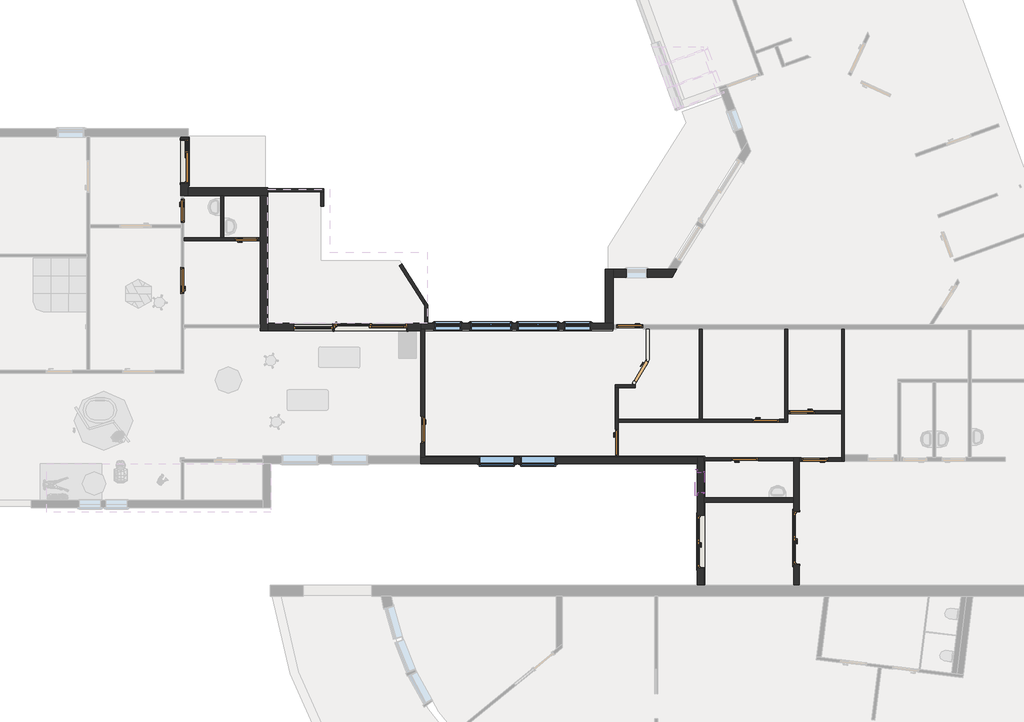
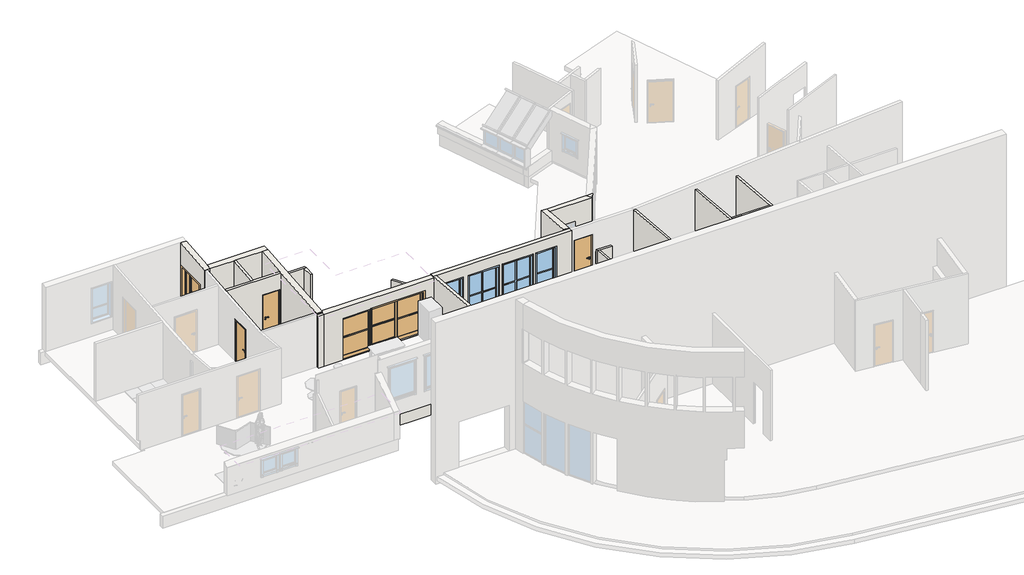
# One storey, part 6 of 13: 37 walls, 17 doors, 7 windows.
"""IFC4 building model written with IfcOpenShell, lengths in millimetres."""

from ifc_helpers import new_model, si_unit, frame, origin, place, context, project, spatial, polyline, outline, extrude, faceted_brep, transform, mapped, element, save
from components import door_11x21_32893f3e, door_18x21_50e2a548, door_18x21_e1513df9, door_25x21_st1_800ea007, door_4x21_9b28eff4, door_8x12_f3acdaa1, door_8x21_60cf5580, door_9x21_12a167ef, door_9x21_a27eb880, door_9x21_ce0798c1, door_9x21_316ed650, door_9x21_44255de1, fast_felt_stf_1_stf1_1_324_1ef75639, window_12x16_fk_50476c46, window_14x17_fk_b532f911, window_7x4_gh_66049d69, window_9x17_fks_5456dc16

model = new_model("IFC4")

# Units and contexts
model_context = context("Model", 3, world=origin())
ifc_project = project(units=[si_unit("LENGTHUNIT", "METRE", prefix="MILLI")], contexts=[model_context])

# Site, building, storey
site = spatial("IfcSite", under=ifc_project)
building = spatial("IfcBuilding", under=site)
storey = spatial("IfcBuildingStorey", under=building, Name="1.0 første etg hovedbygg", Elevation=2500.0)

# Doors
placement = place(None, origin())
door_11x21_shape = door_11x21_32893f3e(model_context)
element("IfcDoor", 1, ObjectType="FPS Bangstad : 11x21", at=placement, inside=storey, context=model_context, shape_type="MappedRepresentation", body=[
    mapped(door_11x21_shape, transform((-6700.0837517, 14051.0, 2500.0), x_axis=(0.0, 1.0, 0.0), y_axis=(-1.0, 0.0, 0.0), z_axis=(0.0, 0.0, 1.0))),
])
door_18x21_shape = door_18x21_50e2a548(model_context)
element("IfcDoor", 2, ObjectType="Eigen 1 med glas Dobbel : 18x21", at=placement, inside=storey, context=model_context, shape_type="MappedRepresentation", body=[
    mapped(door_18x21_shape, transform((10838.9162483, 1331.0, 2500.0), x_axis=(0.0, 1.0, 0.0), y_axis=(-1.0, 0.0, 0.0), z_axis=(0.0, 0.0, 1.0))),
])
door_18x21_2_shape = door_18x21_e1513df9(model_context)
element("IfcDoor", 3, ObjectType="Eigen 1 med glas Dobbel : 18x21", at=placement, inside=storey, context=model_context, shape_type="MappedRepresentation", body=[
    mapped(door_18x21_2_shape, transform((14101.9162483, 1451.0, 2500.0), x_axis=(0.0, 1.0, 0.0), y_axis=(-1.0, 0.0, 0.0), z_axis=(0.0, 0.0, 1.0))),
])
door_25x21_st1_shape = door_25x21_st1_800ea007(model_context)
element("IfcDoor", 4, ObjectType="Balkongdor ST 1 : 25x21 ST1", at=placement, inside=storey, context=model_context, shape_type="MappedRepresentation", body=[
    mapped(door_25x21_st1_shape, transform((-378.0837517, 8668.0, 2500.0), x_axis=(-1.0, 0.0, 0.0), y_axis=(0.0, -1.0, 0.0), z_axis=(0.0, 0.0, 1.0))),
])
door_4x21_shape = door_4x21_9b28eff4(model_context)
element("IfcDoor", 5, ObjectType="Sidefelt HS : 4x21", at=placement, inside=storey, context=model_context, shape_type="MappedRepresentation", body=[
    mapped(door_4x21_shape, transform((-6700.0837517, 14545.0, 2500.0), x_axis=(0.0, -1.0, 0.0), y_axis=(1.0, 0.0, 0.0), z_axis=(0.0, 0.0, 1.0))),
])
door_8x12_shape = door_8x12_f3acdaa1(model_context)
element("IfcDoor", 6, ObjectType="Innerdør Slett (Diplomat) : 8x12", at=placement, inside=storey, context=model_context, shape_type="MappedRepresentation", body=[
    mapped(door_8x12_shape, transform((8787.5726948, 7118.1793516, 2500.0), x_axis=(0.5102616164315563, 0.8600192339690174, 0.0), y_axis=(-0.8600192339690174, 0.5102616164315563, 0.0), z_axis=(0.0, 0.0, 1.0))),
])
door_8x21_shape = door_8x21_60cf5580(model_context)
element("IfcDoor", 7, ObjectType="Innerdør Slett (Diplomat) : 8x21", at=placement, inside=storey, context=model_context, shape_type="MappedRepresentation", body=[
    mapped(door_8x21_shape, transform((-6768.0837517, 12564.620367, 2500.0), x_axis=(0.0, 1.0, 0.0), y_axis=(-1.0, 0.0, 0.0), z_axis=(0.0, 0.0, 1.0))),
])
element("IfcDoor", 8, ObjectType="Innerdør Slett (Diplomat) : 8x21", at=placement, inside=storey, context=model_context, shape_type="MappedRepresentation", body=[
    mapped(door_8x21_shape, transform((-4546.7041187, 11650.0, 2500.0), x_axis=(-1.0, 0.0, 0.0), y_axis=(0.0, -1.0, 0.0), z_axis=(0.0, 0.0, 1.0))),
])
door_9x21_shape = door_9x21_12a167ef(model_context)
element("IfcDoor", 9, ObjectType="Innerdør Slett (Diplomat) : 9x21", at=placement, inside=storey, context=model_context, shape_type="MappedRepresentation", body=[
    mapped(door_9x21_shape, transform((8380.5366152, 8675.0, 2500.0), x_axis=(1.0, 0.0, 0.0), y_axis=(0.0, 1.0, 0.0), z_axis=(0.0, 0.0, 1.0))),
])
door_9x21_2_shape = door_9x21_a27eb880(model_context)
element("IfcDoor", 10, ObjectType="Innerdør Slett (Diplomat) : 9x21", at=placement, inside=storey, context=model_context, shape_type="MappedRepresentation", body=[
    mapped(door_9x21_2_shape, transform((1399.9162483, 5123.620367, 2500.0), x_axis=(0.0, 1.0, 0.0), y_axis=(-1.0, 0.0, 0.0), z_axis=(0.0, 0.0, 1.0))),
])
door_9x21_3_shape = door_9x21_ce0798c1(model_context)
element("IfcDoor", 11, ObjectType="Innerdør Slett (Diplomat) : 9x21", at=placement, inside=storey, context=model_context, shape_type="MappedRepresentation", body=[
    mapped(door_9x21_3_shape, transform((13105.2958813, 5480.0, 2500.0), x_axis=(-1.0, 0.0, 0.0), y_axis=(0.0, -1.0, 0.0), z_axis=(0.0, 0.0, 1.0))),
])
door_9x21_4_shape = door_9x21_316ed650(model_context)
element("IfcDoor", 12, ObjectType="Innerdør Slett (Diplomat) : 9x21", at=placement, inside=storey, context=model_context, shape_type="MappedRepresentation", body=[
    mapped(door_9x21_4_shape, transform((12392.2958813, 4180.0, 2500.0), x_axis=(-1.0, 0.0, 0.0), y_axis=(0.0, -1.0, 0.0), z_axis=(0.0, 0.0, 1.0))),
])
element("IfcDoor", 13, ObjectType="Innerdør Slett (Diplomat) : 9x21", at=placement, inside=storey, context=model_context, shape_type="MappedRepresentation", body=[
    mapped(door_9x21_4_shape, transform((14238.5366152, 5780.0, 2500.0), x_axis=(1.0, 0.0, 0.0), y_axis=(0.0, 1.0, 0.0), z_axis=(0.0, 0.0, 1.0))),
])
element("IfcDoor", 14, ObjectType="Innerdør Slett (Diplomat) : 9x21", at=placement, inside=storey, context=model_context, shape_type="MappedRepresentation", body=[
    mapped(door_9x21_4_shape, transform((7992.6242352, 4683.620367, 2500.0), x_axis=(0.0, 1.0, 0.0), y_axis=(-1.0, 0.0, 0.0), z_axis=(0.0, 0.0, 1.0))),
])
element("IfcDoor", 15, ObjectType="Innerdør Slett (Diplomat) : 9x21", at=placement, inside=storey, context=model_context, shape_type="MappedRepresentation", body=[
    mapped(door_9x21_4_shape, transform((-6768.0837517, 10303.379633, 2500.0), x_axis=(0.0, -1.0, 0.0), y_axis=(1.0, 0.0, 0.0), z_axis=(0.0, 0.0, 1.0))),
])
door_9x21_5_shape = door_9x21_44255de1(model_context)
element("IfcDoor", 16, ObjectType="Innerdør Slett (Diplomat) : 9x21", at=placement, inside=storey, context=model_context, shape_type="MappedRepresentation", body=[
    mapped(door_9x21_5_shape, transform((14668.5366152, 4165.0, 2500.0), x_axis=(1.0, 0.0, 0.0), y_axis=(0.0, 1.0, 0.0), z_axis=(0.0, 0.0, 1.0))),
])
fast_felt_stf_1_stf1_1_324_shape = fast_felt_stf_1_stf1_1_324_1ef75639(model_context)
element("IfcDoor", 17, ObjectType="Fast-Felt STF 1 : STF1 1,324", at=placement, inside=storey, context=model_context, shape_type="MappedRepresentation", body=[
    mapped(fast_felt_stf_1_stf1_1_324_shape, transform((-2320.0837517, 8668.0, 2500.0), x_axis=(1.0, 0.0, 0.0), y_axis=(0.0, 1.0, 0.0), z_axis=(0.0, 0.0, 1.0))),
])

# Walls
element("IfcWall", 18, ObjectType="Yttervegg Tre 148 Isolert LiggendeKledning", at=placement, inside=storey, context=model_context, shape_type="Brep", body=[
    faceted_brep([(10945.9162483, -110.0, 5911.6745073), (10945.9162483, -110.0, 2500.0), (10945.9162483, 470.0, 2500.0), (10945.9162483, 470.0, 4600.0), (10945.9162483, 2280.0, 4600.0), (10945.9162483, 2280.0, 2500.0), (10945.9162483, 2710.0, 2500.0), (10945.9162483, 2860.0, 2500.0), (10945.9162483, 4130.0, 2500.0), (10945.9162483, 4230.0, 2500.0), (10945.9162483, 4244.0, 2500.0), (10945.9162483, 4244.0, 5530.7488664), (10945.9162483, 4230.0, 5531.9737076), (10945.9162483, 4130.0, 5540.722574), (10945.9162483, 3030.0, 3900.0), (10945.9162483, 3030.0, 4310.0), (10945.9162483, 3740.0, 4310.0), (10945.9162483, 3740.0, 3900.0), (10731.9162483, -110.0, 2500.0), (10731.9162483, -110.0, 5911.6745073), (10731.9162483, 4030.0, 5549.4714403), (10731.9162483, 4244.0, 5530.7488664), (10731.9162483, 4244.0, 2500.0), (10731.9162483, 4030.0, 2500.0), (10731.9162483, 2280.0, 2500.0), (10731.9162483, 2280.0, 4600.0), (10731.9162483, 470.0, 4600.0), (10731.9162483, 470.0, 2500.0), (10731.9162483, 3030.0, 4310.0), (10731.9162483, 3030.0, 3900.0), (10731.9162483, 3740.0, 3900.0), (10731.9162483, 3740.0, 4310.0)], [[[0, 1, 2, 3, 4, 5, 6, 7, 8, 9, 10, 11, 12, 13], [14, 15, 16, 17]], [[18, 19, 20, 21, 22, 23, 24, 25, 26, 27], [28, 29, 30, 31]], [[1, 18, 27, 2]], [[22, 10, 9, 8, 7, 6, 5, 24, 23]], [[1, 0, 19, 18]], [[11, 10, 22, 21]], [[4, 25, 24, 5]], [[25, 4, 3, 26]], [[26, 3, 2, 27]], [[0, 13, 12, 11, 21, 20, 19]], [[14, 29, 28, 15]], [[15, 28, 31, 16]], [[16, 31, 30, 17]], [[29, 14, 17, 30]]]),
])
element("IfcWall", 19, ObjectType="Yttervegg Tre 148 Isolert LiggendeKledning", at=placement, inside=storey, context=model_context, shape_type="Brep", body=[
    faceted_brep([(10731.9162483, 4244.0, 2500.0), (8042.6242352, 4244.0, 2500.0), (7942.6242352, 4244.0, 2500.0), (1474.9162483, 4244.0, 2500.0), (1324.9162483, 4244.0, 2500.0), (1319.9162483, 4244.0, 2500.0), (1319.9162483, 4244.0, 5530.7488664), (1324.9162483, 4244.0, 5530.7488664), (1474.9162483, 4244.0, 5530.7488664), (7942.6242352, 4244.0, 5530.7488664), (8042.6242352, 4244.0, 5530.7488664), (10731.9162483, 4244.0, 5530.7488664), (4714.9162483, 4244.0, 4990.0), (4714.9162483, 4244.0, 3380.0), (5924.9162483, 4244.0, 3380.0), (5924.9162483, 4244.0, 4990.0), (3314.9162483, 4244.0, 4990.0), (3314.9162483, 4244.0, 3380.0), (4524.9162483, 4244.0, 3380.0), (4524.9162483, 4244.0, 4990.0), (1319.9162483, 4030.0, 2500.0), (10731.9162483, 4030.0, 2500.0), (10731.9162483, 4030.0, 5549.4714403), (1319.9162483, 4030.0, 5549.4714403), (4714.9162483, 4030.0, 3380.0), (4714.9162483, 4030.0, 4990.0), (5924.9162483, 4030.0, 4990.0), (5924.9162483, 4030.0, 3380.0), (3314.9162483, 4030.0, 3380.0), (3314.9162483, 4030.0, 4990.0), (4524.9162483, 4030.0, 4990.0), (4524.9162483, 4030.0, 3380.0)], [[[0, 1, 2, 3, 4, 5, 6, 7, 8, 9, 10, 11], [12, 13, 14, 15], [16, 17, 18, 19]], [[20, 21, 22, 23], [24, 25, 26, 27], [28, 29, 30, 31]], [[5, 4, 3, 2, 1, 0, 21, 20]], [[6, 5, 20, 23]], [[0, 11, 22, 21]], [[11, 10, 9, 8, 7, 6, 23, 22]], [[24, 13, 12, 25]], [[25, 12, 15, 26]], [[26, 15, 14, 27]], [[13, 24, 27, 14]], [[28, 17, 16, 29]], [[29, 16, 19, 30]], [[30, 19, 18, 31]], [[17, 28, 31, 18]]]),
])
element("IfcWall", 20, ObjectType="Yttervegg Tre 198 Isolert Liggende Kledning", at=placement, inside=storey, context=model_context, shape_type="Brep", body=[
    faceted_brep([(-6832.0837517, 15136.0139609, 5719.8280331), (-6832.0837517, 15136.0139609, 2500.0), (-6832.0837517, 15050.0, 2500.0), (-6832.0837517, 15050.0, 4600.0), (-6832.0837517, 13540.0, 4600.0), (-6832.0837517, 13540.0, 2500.0), (-6832.0837517, 13136.0, 2500.0), (-6832.0837517, 13136.0, 5544.8494847), (-6568.0837517, 15136.0139609, 2500.0), (-6568.0837517, 15136.0139609, 5719.8280331), (-6568.0837517, 13400.0, 5567.9464918), (-6568.0837517, 13136.0, 5544.8494847), (-6568.0837517, 13136.0, 2500.0), (-6568.0837517, 13400.0, 2500.0), (-6568.0837517, 13540.0, 2500.0), (-6568.0837517, 13540.0, 4600.0), (-6568.0837517, 15050.0, 4600.0), (-6568.0837517, 15050.0, 2500.0), (-6622.0837517, 15136.0139609, 2500.0), (-6622.0837517, 15050.0, 2500.0), (-6622.0837517, 13136.0, 2500.0), (-6718.0837517, 13136.0, 2500.0), (-6818.0837517, 13136.0, 2500.0), (-6622.0837517, 13540.0, 2500.0), (-6718.0837517, 13136.0, 5544.8494847), (-6818.0837517, 13136.0, 5544.8494847)], [[[0, 1, 2, 3, 4, 5, 6, 7]], [[8, 9, 10, 11, 12, 13, 14, 15, 16, 17]], [[1, 18, 19, 2]], [[20, 21, 22, 6, 5, 23]], [[1, 0, 9, 8, 18]], [[18, 8, 17, 19]], [[12, 20, 23, 14, 13]], [[6, 22, 21, 20, 12, 11, 24, 25, 7]], [[0, 7, 25, 24, 11, 10, 9]], [[15, 4, 3, 16]], [[4, 15, 14, 23, 5]], [[16, 3, 2, 19, 17]]]),
])
element("IfcWall", 21, ObjectType="Yttervegg Tre 198 Isolert Liggende Kledning", at=placement, inside=storey, context=model_context, shape_type="Brep", body=[
    faceted_brep([(-6568.0837517, 13136.0, 5544.8494847), (-6568.0837517, 13136.0, 2500.0), (-5468.0837517, 13136.0, 2500.0), (-5368.0837517, 13136.0, 2500.0), (-4132.0837517, 13136.0, 2500.0), (-3868.0837517, 13136.0, 2500.0), (-3868.0837517, 13136.0, 5544.8494847), (-4132.0837517, 13136.0, 5544.8494847), (-5368.0837517, 13136.0, 5544.8494847), (-5468.0837517, 13136.0, 5544.8494847), (-6568.0837517, 13400.0, 2500.0), (-6568.0837517, 13400.0, 5567.9464918), (-3868.0837517, 13400.0, 5567.9464918), (-3868.0837517, 13400.0, 2500.0), (-6568.0837517, 13346.0, 2500.0), (-3868.0837517, 13346.0, 2500.0)], [[[0, 1, 2, 3, 4, 5, 6, 7, 8, 9]], [[10, 11, 12, 13]], [[5, 4, 3, 2, 1, 14, 15]], [[14, 10, 13, 15]], [[6, 5, 15, 13, 12]], [[0, 11, 10, 14, 1]], [[0, 9, 8, 7, 6, 12, 11]]]),
])
element("IfcWall", 22, ObjectType="Yttervegg Tre 198 Isolert Liggende Kledning", at=placement, inside=storey, context=model_context, shape_type="Brep", body=[
    faceted_brep([(-4132.0837517, 13136.0, 2500.0), (-4132.0837517, 11700.0, 2500.0), (-4132.0837517, 11600.0, 2500.0), (-4132.0837517, 8750.0, 2500.0), (-4132.0837517, 8650.0, 2500.0), (-4132.0837517, 8536.0, 2500.0), (-4132.0837517, 8536.0, 5101.8794377), (-4132.0837517, 8650.0, 5101.8794377), (-4132.0837517, 8650.0, 5157.7966268), (-4132.0837517, 8680.0, 5155.1719669), (-4132.0837517, 8680.0, 5155.0), (-4132.0837517, 8750.0, 5161.1242064), (-4132.0837517, 11600.0, 5410.4668975), (-4132.0837517, 11700.0, 5419.2157638), (-4132.0837517, 13136.0, 5544.8494847), (-3868.0837517, 13136.0, 2500.0), (-3868.0837517, 13136.0, 5544.8494847), (-3868.0837517, 8680.0, 5155.0), (-3868.0837517, 8680.0, 5155.1719669), (-3868.0837517, 8650.0, 5157.7966268), (-3868.0837517, 8650.0, 5101.8794377), (-3868.0837517, 8536.0, 5101.8794377), (-3868.0837517, 8536.0, 2500.0), (-3868.0837517, 8800.0, 2500.0), (-3922.0837517, 13136.0, 2500.0), (-3922.0837517, 8536.0, 2500.0)], [[[0, 1, 2, 3, 4, 5, 6, 7, 8, 9, 10, 11, 12, 13, 14]], [[15, 16, 17, 18, 19, 20, 21, 22, 23]], [[5, 4, 3, 2, 1, 0, 24, 25]], [[0, 14, 16, 15, 24]], [[24, 15, 23, 22, 25]], [[9, 18, 17, 10]], [[14, 13, 12, 11, 10, 17, 16]], [[9, 8, 19, 18]], [[20, 7, 6, 21]], [[6, 5, 25, 22, 21]], [[8, 7, 20, 19]]]),
])
element("IfcWall", 23, ObjectType="Yttervegg Tre 198 Isolert Liggende Kledning", at=placement, inside=storey, context=model_context, shape_type="Brep", body=[
    faceted_brep([(1324.9162483, 8536.0, 5101.8794377), (-3868.0837517, 8536.0, 5101.8794377), (-3868.0837517, 8536.0, 2500.0), (-2982.0837517, 8536.0, 2500.0), (-2982.0837517, 8536.0, 4600.0), (-1658.0837517, 8536.0, 4600.0), (-1658.0837517, 8536.0, 2500.0), (-1638.0837517, 8536.0, 2500.0), (-1638.0837517, 8536.0, 4600.0), (881.9162483, 8536.0, 4600.0), (881.9162483, 8536.0, 2500.0), (1324.9162483, 8536.0, 2500.0), (-3868.0837517, 8800.0, 5101.8794377), (1324.9162483, 8800.0, 5101.8794377), (1324.9162483, 8800.0, 2500.0), (881.9162483, 8800.0, 2500.0), (881.9162483, 8800.0, 4600.0), (-1638.0837517, 8800.0, 4600.0), (-1638.0837517, 8800.0, 2500.0), (-1658.0837517, 8800.0, 2500.0), (-1658.0837517, 8800.0, 4600.0), (-2982.0837517, 8800.0, 4600.0), (-2982.0837517, 8800.0, 2500.0), (-3868.0837517, 8800.0, 2500.0), (-3868.0837517, 8650.0, 5101.8794377), (-3868.0837517, 8746.0, 2500.0), (-2982.0837517, 8746.0, 2500.0), (1324.9162483, 8746.0, 2500.0), (1324.9162483, 8586.0, 2500.0), (881.9162483, 8746.0, 2500.0), (-1638.0837517, 8746.0, 2500.0), (-1658.0837517, 8746.0, 2500.0)], [[[0, 1, 2, 3, 4, 5, 6, 7, 8, 9, 10, 11]], [[12, 13, 14, 15, 16, 17, 18, 19, 20, 21, 22, 23]], [[1, 0, 13, 12, 24]], [[2, 25, 26, 3]], [[27, 28, 11, 10, 29]], [[30, 7, 6, 31]], [[2, 1, 24, 12, 23, 25]], [[25, 23, 22, 26]], [[14, 27, 29, 15]], [[18, 30, 31, 19]], [[8, 7, 30, 18, 17]], [[9, 8, 17, 16]], [[10, 9, 16, 15, 29]], [[5, 20, 19, 31, 6]], [[20, 5, 4, 21]], [[21, 4, 3, 26, 22]], [[13, 0, 11, 28, 27, 14]]]),
])
element("IfcWall", 24, ObjectType="Yttervegg Tre 198 Isolert Liggende Kledning", at=placement, inside=storey, context=model_context, shape_type="Brep", body=[
    faceted_brep([(7865.9162483, 8800.0, 2500.0), (7865.9162483, 10366.0, 2500.0), (7865.9162483, 10630.0, 2500.0), (7865.9162483, 10630.0, 5000.0), (7865.9162483, 10366.0, 5023.0970072), (7865.9162483, 8800.0, 5160.1042543), (7865.9162483, 8800.0, 5132.1505153), (7601.9162483, 8800.0, 2500.0), (7601.9162483, 8800.0, 5160.1042543), (7601.9162483, 10630.0, 5000.0), (7601.9162483, 10630.0, 2500.0), (7655.9162483, 8800.0, 2500.0), (7655.9162483, 10630.0, 2500.0)], [[[0, 1, 2, 3, 4, 5, 6]], [[7, 8, 9, 10]], [[2, 1, 0, 11, 12]], [[0, 6, 5, 8, 7, 11]], [[11, 7, 10, 12]], [[3, 2, 12, 10, 9]], [[5, 4, 3, 9, 8]]]),
])
element("IfcWall", 25, ObjectType="Yttervegg Tre 198 Isolert Liggende Kledning", at=placement, inside=storey, context=model_context, shape_type="Brep", body=[
    faceted_brep([(7865.9162483, 10366.0, 2500.0), (9872.7943192, 10366.0, 2500.0), (9872.7943192, 10366.0, 5023.0970072), (7865.9162483, 10366.0, 5023.0970072), (8314.1857909, 10366.0, 3380.0), (8314.1857909, 10366.0, 4090.0), (9024.1857909, 10366.0, 4090.0), (9024.1857909, 10366.0, 3380.0), (7865.9162483, 10630.0, 2500.0), (7865.9162483, 10630.0, 5000.0), (9726.4567296, 10630.0, 5000.0), (10037.7598281, 10630.0, 5023.0970072), (10037.7598281, 10630.0, 2500.0), (9726.4567296, 10630.0, 2500.0), (8314.1857909, 10630.0, 3380.0), (9024.1857909, 10630.0, 3380.0), (9024.1857909, 10630.0, 4090.0), (8314.1857909, 10630.0, 4090.0), (7865.9162483, 10576.0, 2500.0), (10004.0168831, 10576.0, 2500.0)], [[[0, 1, 2, 3], [4, 5, 6, 7]], [[8, 9, 10, 11, 12, 13], [14, 15, 16, 17]], [[1, 0, 18, 19]], [[0, 3, 9, 8, 18]], [[18, 8, 13, 12, 19]], [[2, 1, 19, 12, 11]], [[3, 2, 10, 9]], [[2, 11, 10]], [[5, 4, 14, 17]], [[6, 5, 17, 16]], [[7, 6, 16, 15]], [[4, 7, 15, 14]]]),
])
element("IfcWall", 26, ObjectType="Yttervegg Tre 148 Isolert LiggendeKledning", at=placement, inside=storey, context=model_context, shape_type="Brep", body=[
    faceted_brep([(1324.9162483, 8586.0, 2500.0), (1474.9162483, 8586.0, 2500.0), (7865.9162483, 8586.0, 2500.0), (7865.9162483, 8586.0, 5150.8730893), (1474.9162483, 8586.0, 5150.8730893), (1324.9162483, 8586.0, 5150.8730893), (1791.9162483, 8586.0, 2890.0), (1791.9162483, 8586.0, 4600.0), (2701.9162483, 8586.0, 4600.0), (2701.9162483, 8586.0, 2890.0), (3007.9162483, 8586.0, 2890.0), (3007.9162483, 8586.0, 4600.0), (4417.9162483, 8586.0, 4600.0), (4417.9162483, 8586.0, 2890.0), (4607.9162483, 8586.0, 2890.0), (4607.9162483, 8586.0, 4600.0), (6017.9162483, 8586.0, 4600.0), (6017.9162483, 8586.0, 2890.0), (6201.9162483, 8586.0, 2890.0), (6201.9162483, 8586.0, 4600.0), (7111.9162483, 8586.0, 4600.0), (7111.9162483, 8586.0, 2890.0), (7865.9162483, 8800.0, 2500.0), (7601.9162483, 8800.0, 2500.0), (1324.9162483, 8800.0, 2500.0), (1324.9162483, 8800.0, 5101.8794377), (1324.9162483, 8800.0, 5132.1505153), (7865.9162483, 8800.0, 5132.1505153), (1791.9162483, 8800.0, 4600.0), (1791.9162483, 8800.0, 2890.0), (2701.9162483, 8800.0, 2890.0), (2701.9162483, 8800.0, 4600.0), (3007.9162483, 8800.0, 4600.0), (3007.9162483, 8800.0, 2890.0), (4417.9162483, 8800.0, 2890.0), (4417.9162483, 8800.0, 4600.0), (4607.9162483, 8800.0, 4600.0), (4607.9162483, 8800.0, 2890.0), (6017.9162483, 8800.0, 2890.0), (6017.9162483, 8800.0, 4600.0), (6201.9162483, 8800.0, 4600.0), (6201.9162483, 8800.0, 2890.0), (7111.9162483, 8800.0, 2890.0), (7111.9162483, 8800.0, 4600.0), (7865.9162483, 8750.0, 2500.0), (7865.9162483, 8600.0, 2500.0), (7865.9162483, 8750.0, 5136.5249485), (1324.9162483, 8750.0, 5136.5249485)], [[[0, 1, 2, 3, 4, 5], [6, 7, 8, 9], [10, 11, 12, 13], [14, 15, 16, 17], [18, 19, 20, 21]], [[22, 23, 24, 25, 26, 27], [28, 29, 30, 31], [32, 33, 34, 35], [36, 37, 38, 39], [40, 41, 42, 43]], [[2, 1, 0, 24, 23, 22, 44, 45]], [[3, 2, 45, 44, 22, 27, 46]], [[5, 4, 3, 46, 27, 26, 47]], [[24, 0, 5, 47, 26, 25]], [[7, 6, 29, 28]], [[8, 7, 28, 31]], [[9, 8, 31, 30]], [[6, 9, 30, 29]], [[11, 10, 33, 32]], [[12, 11, 32, 35]], [[13, 12, 35, 34]], [[10, 13, 34, 33]], [[14, 37, 36, 15]], [[15, 36, 39, 16]], [[16, 39, 38, 17]], [[37, 14, 17, 38]], [[18, 41, 40, 19]], [[19, 40, 43, 20]], [[20, 43, 42, 21]], [[41, 18, 21, 42]]]),
])
element("IfcWall", 27, ObjectType="Yttervegg MH48 stående kledning", at=placement, inside=storey, context=model_context, shape_type="Brep", body=[
    faceted_brep([(1458.9167873, 9581.7851479, 2450.0), (1458.9167873, 9389.3015234, 2450.0), (1458.9167873, 8800.0, 2450.0), (1458.9167873, 8800.0, 3900.0), (1458.9167873, 9389.3015234, 3900.0), (1458.9167873, 9581.7851479, 3900.0), (1560.9167873, 9418.5492888, 2450.0), (1560.9167873, 9418.5492888, 3900.0), (1560.9167873, 8800.0, 3900.0), (1560.9167873, 8800.0, 2450.0)], [[[0, 1, 2, 3, 4, 5]], [[6, 7, 8, 9]], [[2, 1, 0, 6, 9]], [[5, 4, 3, 8, 7]], [[3, 2, 9, 8]], [[0, 5, 7, 6]]]),
])
element("IfcWall", 28, ObjectType="Yttervegg MH48 stående kledning", at=placement, inside=storey, context=model_context, shape_type="Brep", body=[
    faceted_brep([(-1972.5774456, 13370.8643675, 2450.0), (-3833.5774456, 13370.8643675, 2450.0), (-3833.5774456, 13370.8643675, 3900.0), (-1972.5774456, 13370.8643675, 3900.0), (-1972.5774456, 13268.8643675, 2450.0), (-1972.5774456, 13268.8643675, 3900.0), (-2074.5774456, 13268.8643675, 3900.0), (-3833.5774456, 13268.8643675, 3900.0), (-3833.5774456, 13268.8643675, 2450.0), (-2074.5774456, 13268.8643675, 2450.0)], [[[0, 1, 2, 3]], [[4, 5, 6, 7, 8, 9]], [[1, 0, 4, 9, 8]], [[2, 1, 8, 7]], [[3, 2, 7, 6, 5]], [[0, 3, 5, 4]]]),
])
element("IfcWall", 29, ObjectType="Yttervegg MH48 stående kledning", at=placement, inside=storey, context=model_context, shape_type="SweptSolid", body=[
    extrude(outline(polyline([(-1972.5774456, 13268.8643675), (-1972.5774456, 12769.8643675), (-2074.5774456, 12769.8643675), (-2074.5774456, 13268.8643675), (-1972.5774456, 13268.8643675)])), frame((0.0, 0.0, 2450.0), z_axis=(0.0, 0.0, 1.0), x_axis=(1.0, 0.0, 0.0)), (0.0, 0.0, 1.0), 1450.0),
])
element("IfcWall", 30, ObjectType="Yttervegg MH48 stående kledning", at=placement, inside=storey, context=model_context, shape_type="SweptSolid", body=[
    extrude(outline(polyline([(1458.9167873, 9389.3015234), (602.9044153, 10759.2222581), (689.4055796, 10813.2736093), (1458.9167873, 9581.7851479), (1458.9167873, 9389.3015234)])), frame((0.0, 0.0, 2450.0), z_axis=(0.0, 0.0, 1.0), x_axis=(1.0, 0.0, 0.0)), (0.0, 0.0, 1.0), 1450.0),
])
element("IfcWall", 31, ObjectType="Generic - 100mm - Filled", at=placement, inside=storey, context=model_context, shape_type="Brep", body=[
    faceted_brep([(13701.9162483, 8600.0, 2500.0), (13701.9162483, 5530.0, 2500.0), (13701.9162483, 5430.0, 2500.0), (13701.9162483, 5430.0, 5426.9873114), (13701.9162483, 5530.0, 5418.2384451), (13701.9162483, 8600.0, 5149.648248), (13801.9162483, 8600.0, 2500.0), (13801.9162483, 8600.0, 5149.648248), (13801.9162483, 5830.0, 5391.991846), (13801.9162483, 5730.0, 5400.7407124), (13801.9162483, 5430.0, 5426.9873114), (13801.9162483, 5430.0, 2500.0), (13801.9162483, 5730.0, 2500.0), (13801.9162483, 5830.0, 2500.0)], [[[0, 1, 2, 3, 4, 5]], [[6, 7, 8, 9, 10, 11, 12, 13]], [[2, 1, 0, 6, 13, 12, 11]], [[0, 5, 7, 6]], [[3, 2, 11, 10]], [[5, 4, 3, 10, 9, 8, 7]]]),
])
element("IfcWall", 32, ObjectType="Generic - 100mm - Filled", at=placement, inside=storey, context=model_context, shape_type="Brep", body=[
    faceted_brep([(13701.9162483, 5530.0, 5418.2384451), (13701.9162483, 5530.0, 2500.0), (13506.9162483, 5530.0, 2500.0), (13506.9162483, 5530.0, 4615.0), (12596.9162483, 5530.0, 4615.0), (12596.9162483, 5530.0, 2500.0), (10901.9162483, 5530.0, 2500.0), (10801.9162483, 5530.0, 2500.0), (8042.6242352, 5530.0, 2500.0), (8042.6242352, 5530.0, 5418.2384451), (10801.9162483, 5530.0, 5418.2384451), (10901.9162483, 5530.0, 5418.2384451), (13701.9162483, 5430.0, 2500.0), (13701.9162483, 5430.0, 5426.9873114), (8042.6242352, 5430.0, 5426.9873114), (8042.6242352, 5430.0, 2500.0), (12596.9162483, 5430.0, 2500.0), (12596.9162483, 5430.0, 4615.0), (13506.9162483, 5430.0, 4615.0), (13506.9162483, 5430.0, 2500.0)], [[[0, 1, 2, 3, 4, 5, 6, 7, 8, 9, 10, 11]], [[12, 13, 14, 15, 16, 17, 18, 19]], [[1, 12, 19, 2]], [[15, 8, 7, 6, 5, 16]], [[1, 0, 13, 12]], [[9, 8, 15, 14]], [[0, 11, 10, 9, 14, 13]], [[18, 3, 2, 19]], [[3, 18, 17, 4]], [[4, 17, 16, 5]]]),
])
element("IfcWall", 33, ObjectType="Generic - 100mm - Filled", at=placement, inside=storey, context=model_context, shape_type="Brep", body=[
    faceted_brep([(8627.6524123, 6704.2640687, 2500.0), (7942.6242352, 6704.2640687, 2500.0), (7942.6242352, 6704.2640687, 5315.5036511), (8627.6524123, 6704.2640687, 5315.5036511), (8627.6524123, 6604.2640687, 2500.0), (8627.6524123, 6604.2640687, 5324.2525174), (8042.6242352, 6604.2640687, 5324.2525174), (7942.6242352, 6604.2640687, 5324.2525174), (7942.6242352, 6604.2640687, 2500.0), (8042.6242352, 6604.2640687, 2500.0)], [[[0, 1, 2, 3]], [[4, 5, 6, 7, 8, 9]], [[1, 0, 4, 9, 8]], [[0, 3, 5, 4]], [[2, 1, 8, 7]], [[3, 2, 7, 6, 5]]]),
])
element("IfcWall", 34, ObjectType="Generic - 100mm - Filled", at=placement, inside=storey, context=model_context, shape_type="Brep", body=[
    faceted_brep([(7942.6242352, 6604.2640687, 5324.2525174), (7942.6242352, 6604.2640687, 2500.0), (7942.6242352, 5192.0, 2500.0), (7942.6242352, 5192.0, 4615.0), (7942.6242352, 4282.0, 4615.0), (7942.6242352, 4282.0, 2500.0), (7942.6242352, 4244.0, 2500.0), (7942.6242352, 4244.0, 5530.7488664), (8042.6242352, 6604.2640687, 2500.0), (8042.6242352, 6604.2640687, 5324.2525174), (8042.6242352, 5530.0, 5418.2384451), (8042.6242352, 5430.0, 5426.9873114), (8042.6242352, 4244.0, 5530.7488664), (8042.6242352, 4244.0, 2500.0), (8042.6242352, 4282.0, 2500.0), (8042.6242352, 4282.0, 4615.0), (8042.6242352, 5192.0, 4615.0), (8042.6242352, 5192.0, 2500.0), (8042.6242352, 5430.0, 2500.0), (8042.6242352, 5530.0, 2500.0)], [[[0, 1, 2, 3, 4, 5, 6, 7]], [[8, 9, 10, 11, 12, 13, 14, 15, 16, 17, 18, 19]], [[1, 8, 19, 18, 17, 2]], [[13, 6, 5, 14]], [[1, 0, 9, 8]], [[7, 6, 13, 12]], [[0, 7, 12, 11, 10, 9]], [[4, 15, 14, 5]], [[15, 4, 3, 16]], [[16, 3, 2, 17]]]),
])
element("IfcWall", 35, ObjectType="Generic - 100mm - Filled", at=placement, inside=storey, context=model_context, shape_type="SweptSolid", body=[
    extrude(outline(polyline([(8600.0, 2500.0), (5530.0, 2500.0), (5530.0, 5418.2384451), (8600.0, 5149.648248), (8600.0, 2500.0)])), frame((10801.9162483, 0.0, 0.0), z_axis=(1.0, 0.0, 0.0), x_axis=(0.0, 1.0, 0.0)), (0.0, 0.0, 1.0), 100.0),
])
element("IfcWall", 36, ObjectType="Generic - 100mm - Filled", at=placement, inside=storey, context=model_context, shape_type="Brep", body=[
    faceted_brep([(13801.9162483, 5830.0, 2500.0), (13801.9162483, 5830.0, 5391.991846), (15631.9162483, 5830.0, 5391.991846), (15631.9162483, 5830.0, 2500.0), (14746.9162483, 5830.0, 2500.0), (14746.9162483, 5830.0, 4615.0), (13836.9162483, 5830.0, 4615.0), (13836.9162483, 5830.0, 2500.0), (13801.9162483, 5730.0, 5400.7407124), (13801.9162483, 5730.0, 2500.0), (13836.9162483, 5730.0, 2500.0), (13836.9162483, 5730.0, 4615.0), (14746.9162483, 5730.0, 4615.0), (14746.9162483, 5730.0, 2500.0), (15631.9162483, 5730.0, 2500.0), (15631.9162483, 5730.0, 5400.7407124)], [[[0, 1, 2, 3, 4, 5, 6, 7]], [[8, 9, 10, 11, 12, 13, 14, 15]], [[9, 0, 7, 10]], [[3, 14, 13, 4]], [[1, 0, 9, 8]], [[3, 2, 15, 14]], [[2, 1, 8, 15]], [[6, 11, 10, 7]], [[11, 6, 5, 12]], [[12, 5, 4, 13]]]),
])
element("IfcWall", 37, ObjectType="Generic - 100mm - Filled", at=placement, inside=storey, context=model_context, shape_type="Brep", body=[
    faceted_brep([(15631.9162483, 8600.0, 2500.0), (15631.9162483, 5830.0, 2500.0), (15631.9162483, 5730.0, 2500.0), (15631.9162483, 4230.0, 2500.0), (15631.9162483, 4100.0, 2500.0), (15631.9162483, 4100.0, 5543.3472339), (15631.9162483, 4230.0, 5531.9737076), (15631.9162483, 5730.0, 5400.7407124), (15631.9162483, 5830.0, 5391.991846), (15631.9162483, 8600.0, 5149.648248), (15731.9162483, 8600.0, 2500.0), (15731.9162483, 8600.0, 5149.648248), (15731.9162483, 4320.0, 5524.0997279), (15731.9162483, 4100.0, 5543.3472339), (15731.9162483, 4100.0, 2500.0), (15731.9162483, 4320.0, 2500.0)], [[[0, 1, 2, 3, 4, 5, 6, 7, 8, 9]], [[10, 11, 12, 13, 14, 15]], [[4, 3, 2, 1, 0, 10, 15, 14]], [[0, 9, 11, 10]], [[5, 4, 14, 13]], [[9, 8, 7, 6, 5, 13, 12, 11]]]),
])
element("IfcWall", 38, ObjectType="Generic - 100mm - Filled", at=placement, inside=storey, context=model_context, shape_type="Brep", body=[
    faceted_brep([(14001.9162483, 4130.0, 2500.0), (14001.9162483, 4130.0, 5540.722574), (10945.9162483, 4130.0, 5540.722574), (10945.9162483, 4130.0, 2500.0), (11883.9162483, 4130.0, 2500.0), (11883.9162483, 4130.0, 4615.0), (12793.9162483, 4130.0, 4615.0), (12793.9162483, 4130.0, 2500.0), (14001.9162483, 4230.0, 5531.9737076), (14001.9162483, 4230.0, 2500.0), (12793.9162483, 4230.0, 2500.0), (12793.9162483, 4230.0, 4615.0), (11883.9162483, 4230.0, 4615.0), (11883.9162483, 4230.0, 2500.0), (10945.9162483, 4230.0, 2500.0), (10945.9162483, 4230.0, 5531.9737076)], [[[0, 1, 2, 3, 4, 5, 6, 7]], [[8, 9, 10, 11, 12, 13, 14, 15]], [[3, 14, 13, 4]], [[9, 0, 7, 10]], [[1, 0, 9, 8]], [[3, 2, 15, 14]], [[2, 1, 8, 15]], [[6, 11, 10, 7]], [[11, 6, 5, 12]], [[12, 5, 4, 13]]]),
])
element("IfcWall", 39, ObjectType="Generic - 100mm - Filled", at=placement, inside=storey, context=model_context, shape_type="SweptSolid", body=[
    extrude(outline(polyline([(13136.0, 2500.0), (11700.0, 2500.0), (11700.0, 5419.2157638), (13136.0, 5544.8494847), (13136.0, 2500.0)])), frame((-5468.0837517, 0.0, 0.0), z_axis=(1.0, 0.0, 0.0), x_axis=(0.0, 1.0, 0.0)), (0.0, 0.0, 1.0), 100.0),
])
element("IfcWall", 40, ObjectType="Generic - 100mm - Filled", at=placement, inside=storey, context=model_context, shape_type="Brep", body=[
    faceted_brep([(-4132.0837517, 11600.0, 2500.0), (-4132.0837517, 11600.0, 5410.4668975), (-6718.0837517, 11600.0, 5410.4668975), (-6718.0837517, 11600.0, 2500.0), (-5005.0837517, 11600.0, 2500.0), (-5005.0837517, 11600.0, 4615.0), (-4195.0837517, 11600.0, 4615.0), (-4195.0837517, 11600.0, 2500.0), (-4132.0837517, 11700.0, 5419.2157638), (-4132.0837517, 11700.0, 2500.0), (-4195.0837517, 11700.0, 2500.0), (-4195.0837517, 11700.0, 4615.0), (-5005.0837517, 11700.0, 4615.0), (-5005.0837517, 11700.0, 2500.0), (-5368.0837517, 11700.0, 2500.0), (-5468.0837517, 11700.0, 2500.0), (-6718.0837517, 11700.0, 2500.0), (-6718.0837517, 11700.0, 5419.2157638), (-5468.0837517, 11700.0, 5419.2157638), (-5368.0837517, 11700.0, 5419.2157638)], [[[0, 1, 2, 3, 4, 5, 6, 7]], [[8, 9, 10, 11, 12, 13, 14, 15, 16, 17, 18, 19]], [[3, 16, 15, 14, 13, 4]], [[9, 0, 7, 10]], [[1, 0, 9, 8]], [[3, 2, 17, 16]], [[2, 1, 8, 19, 18, 17]], [[6, 11, 10, 7]], [[11, 6, 5, 12]], [[12, 5, 4, 13]]]),
])
element("IfcWall", 41, ObjectType="Generic - 100mm - Filled", at=placement, inside=storey, context=model_context, shape_type="Brep", body=[
    faceted_brep([(9001.9162483, 8600.0, 3700.0), (9001.9162483, 8600.0, 2500.0), (9001.9162483, 7577.4331366, 2500.0), (9001.9162483, 7523.9939324, 2500.0), (9001.9162483, 7523.9939324, 3700.0), (9001.9162483, 7577.4331366, 3700.0), (9101.9162483, 7550.0, 2500.0), (9101.9162483, 8600.0, 2500.0), (9101.9162483, 8600.0, 3700.0), (9101.9162483, 7550.0, 3700.0), (9064.467189, 7486.8815716, 2500.0), (9064.467189, 7486.8815716, 3700.0)], [[[0, 1, 2, 3, 4, 5]], [[6, 7, 8, 9]], [[7, 6, 10, 3, 2, 1]], [[9, 8, 0, 5, 4, 11]], [[6, 9, 11, 10]], [[4, 3, 10, 11]], [[1, 0, 8, 7]]]),
])
element("IfcWall", 42, ObjectType="Generic - 100mm - Filled", at=placement, inside=storey, context=model_context, shape_type="SweptSolid", body=[
    extrude(outline(polyline([(8600.129118, 6704.2640687), (8514.1271946, 6755.2902304), (8565.1533563, 6841.2921538), (8651.1552797, 6790.2659921), (8600.129118, 6704.2640687)])), frame((0.0, 0.0, 2500.0), z_axis=(0.0, 0.0, 1.0), x_axis=(1.0, 0.0, 0.0)), (0.0, 0.0, 1.0), 1200.0),
    extrude(outline(polyline([(8978.4652656, 7537.9077333), (9001.9162483, 7577.4331366), (9001.9162483, 7523.9939324), (8978.4652656, 7537.9077333)])), frame((0.0, 0.0, 2500.0), z_axis=(0.0, 0.0, 1.0), x_axis=(1.0, 0.0, 0.0)), (0.0, 0.0, 1.0), 1200.0),
])
element("IfcWall", 43, ObjectType="Generic - 130mm - Filled", at=placement, inside=storey, context=model_context, shape_type="Brep", body=[
    faceted_brep([(14201.9162483, 4230.0, 2500.0), (14201.9162483, 4230.0, 5531.9737076), (15631.9162483, 4230.0, 5531.9737076), (15631.9162483, 4230.0, 2500.0), (15176.9162483, 4230.0, 2500.0), (15176.9162483, 4230.0, 4615.0), (14266.9162483, 4230.0, 4615.0), (14266.9162483, 4230.0, 2500.0), (14201.9162483, 4100.0, 5543.3472339), (14201.9162483, 4100.0, 2500.0), (14266.9162483, 4100.0, 2500.0), (14266.9162483, 4100.0, 4615.0), (15176.9162483, 4100.0, 4615.0), (15176.9162483, 4100.0, 2500.0), (15631.9162483, 4100.0, 2500.0), (15631.9162483, 4100.0, 5543.3472339)], [[[0, 1, 2, 3, 4, 5, 6, 7]], [[8, 9, 10, 11, 12, 13, 14, 15]], [[3, 14, 13, 4]], [[9, 0, 7, 10]], [[1, 0, 9, 8]], [[3, 2, 15, 14]], [[2, 1, 8, 15]], [[11, 6, 5, 12]], [[12, 5, 4, 13]], [[6, 11, 10, 7]]]),
])
element("IfcWall", 44, ObjectType="Generic - 150mm - Filled", at=placement, inside=storey, context=model_context, shape_type="Brep", body=[
    faceted_brep([(1474.9162483, 4244.0, 5530.7488664), (1474.9162483, 4244.0, 2500.0), (1474.9162483, 4722.0, 2500.0), (1474.9162483, 4722.0, 4615.0), (1474.9162483, 5632.0, 4615.0), (1474.9162483, 5632.0, 2500.0), (1474.9162483, 8586.0, 2500.0), (1474.9162483, 8586.0, 5150.8730893), (1324.9162483, 4244.0, 2500.0), (1324.9162483, 4244.0, 5530.7488664), (1324.9162483, 8586.0, 5150.8730893), (1324.9162483, 8586.0, 2500.0), (1324.9162483, 8536.0, 2500.0), (1324.9162483, 5632.0, 2500.0), (1324.9162483, 5632.0, 4615.0), (1324.9162483, 4722.0, 4615.0), (1324.9162483, 4722.0, 2500.0)], [[[0, 1, 2, 3, 4, 5, 6, 7]], [[8, 9, 10, 11, 12, 13, 14, 15, 16]], [[1, 8, 16, 2]], [[11, 6, 5, 13, 12]], [[1, 0, 9, 8]], [[0, 7, 10, 9]], [[6, 11, 10, 7]], [[15, 3, 2, 16]], [[3, 15, 14, 4]], [[4, 14, 13, 5]]]),
])
element("IfcWall", 45, ObjectType="Generic - 150mm - Filled", at=placement, inside=storey, context=model_context, shape_type="SweptSolid", body=[
    extrude(outline(polyline([(14001.9162483, 2710.0), (10945.9162483, 2710.0), (10945.9162483, 2860.0), (14001.9162483, 2860.0), (14001.9162483, 2710.0)])), frame((0.0, 0.0, 2500.0), z_axis=(0.0, 0.0, 1.0), x_axis=(1.0, 0.0, 0.0)), (0.0, 0.0, 1.0), 3320.0),
])
element("IfcWall", 46, ObjectType="Generic - 200mm - Filled", at=placement, inside=storey, context=model_context, shape_type="Brep", body=[
    faceted_brep([(14201.9162483, -110.0, 5911.6745073), (14201.9162483, -110.0, 2500.0), (14201.9162483, 590.0, 2500.0), (14201.9162483, 590.0, 4600.0), (14201.9162483, 2400.0, 4600.0), (14201.9162483, 2400.0, 2500.0), (14201.9162483, 4100.0, 2500.0), (14201.9162483, 4230.0, 2500.0), (14201.9162483, 4230.0, 5531.9737076), (14201.9162483, 4100.0, 5543.3472339), (14001.9162483, -110.0, 2500.0), (14001.9162483, -110.0, 5911.6745073), (14001.9162483, 4130.0, 5540.722574), (14001.9162483, 4230.0, 5531.9737076), (14001.9162483, 4230.0, 2500.0), (14001.9162483, 4130.0, 2500.0), (14001.9162483, 2860.0, 2500.0), (14001.9162483, 2710.0, 2500.0), (14001.9162483, 2400.0, 2500.0), (14001.9162483, 2400.0, 4600.0), (14001.9162483, 590.0, 4600.0), (14001.9162483, 590.0, 2500.0)], [[[0, 1, 2, 3, 4, 5, 6, 7, 8, 9]], [[10, 11, 12, 13, 14, 15, 16, 17, 18, 19, 20, 21]], [[1, 10, 21, 2]], [[14, 7, 6, 5, 18, 17, 16, 15]], [[1, 0, 11, 10]], [[8, 7, 14, 13]], [[4, 19, 18, 5]], [[19, 4, 3, 20]], [[20, 3, 2, 21]], [[0, 9, 8, 13, 12, 11]]]),
])
element("IfcWall", 47, ObjectType="Yttervegg 200 betong", at=placement, inside=storey, context=model_context, shape_type="Brep", body=[
    faceted_brep([(10985.9162483, -110.0, 1900.0), (10985.9162483, 4284.0, 1900.0), (10985.9162483, 4284.0, 2500.0), (10985.9162483, -110.0, 2500.0), (10785.9162483, -110.0, 1900.0), (10785.9162483, -110.0, 2500.0), (10785.9162483, 4084.0, 2500.0), (10785.9162483, 4284.0, 2500.0), (10785.9162483, 4284.0, 1900.0), (10785.9162483, 4084.0, 1900.0)], [[[0, 1, 2, 3]], [[4, 5, 6, 7, 8, 9]], [[1, 0, 4, 9, 8]], [[3, 2, 7, 6, 5]], [[0, 3, 5, 4]], [[2, 1, 8, 7]]]),
])
element("IfcWall", 48, ObjectType="Yttervegg 200 betong", at=placement, inside=storey, context=model_context, shape_type="Brep", body=[
    faceted_brep([(10785.9162483, 4284.0, 1900.0), (-3998.0837517, 4284.0, 1900.0), (-3998.0837517, 4284.0, 2500.0), (10785.9162483, 4284.0, 2500.0), (10785.9162483, 4084.0, 1900.0), (10785.9162483, 4084.0, 2500.0), (-3798.0837517, 4084.0, 2500.0), (-3998.0837517, 4084.0, 2500.0), (-3998.0837517, 4084.0, 1900.0), (-3798.0837517, 4084.0, 1900.0)], [[[0, 1, 2, 3]], [[4, 5, 6, 7, 8, 9]], [[1, 0, 4, 9, 8]], [[3, 2, 7, 6, 5]], [[0, 3, 5, 4]], [[2, 1, 8, 7]]]),
])
element("IfcWall", 49, ObjectType="Yttervegg 200 betong", at=placement, inside=storey, context=model_context, shape_type="Brep", body=[
    faceted_brep([(-6822.0837517, 15150.0, 1900.0), (-6822.0837517, 13146.0, 1900.0), (-6822.0837517, 13146.0, 2500.0), (-6822.0837517, 15150.0, 2500.0), (-6622.0837517, 15150.0, 1900.0), (-6622.0837517, 15150.0, 2500.0), (-6622.0837517, 13346.0, 2500.0), (-6622.0837517, 13146.0, 2500.0), (-6622.0837517, 13146.0, 1900.0), (-6622.0837517, 13346.0, 1900.0)], [[[0, 1, 2, 3]], [[4, 5, 6, 7, 8, 9]], [[1, 0, 4, 9, 8]], [[3, 2, 7, 6, 5]], [[2, 1, 8, 7]], [[0, 3, 5, 4]]]),
])
element("IfcWall", 50, ObjectType="Yttervegg 200 betong", at=placement, inside=storey, context=model_context, shape_type="Brep", body=[
    faceted_brep([(-6622.0837517, 13146.0, 1900.0), (-4118.0837517, 13146.0, 1900.0), (-3918.0837517, 13146.0, 1900.0), (-3918.0837517, 13146.0, 2500.0), (-4118.0837517, 13146.0, 2500.0), (-6622.0837517, 13146.0, 2500.0), (-6622.0837517, 13346.0, 1900.0), (-6622.0837517, 13346.0, 2500.0), (-3918.0837517, 13346.0, 2500.0), (-3918.0837517, 13346.0, 1900.0)], [[[0, 1, 2, 3, 4, 5]], [[6, 7, 8, 9]], [[2, 1, 0, 6, 9]], [[5, 4, 3, 8, 7]], [[0, 5, 7, 6]], [[3, 2, 9, 8]]]),
])
element("IfcWall", 51, ObjectType="Yttervegg 200 betong", at=placement, inside=storey, context=model_context, shape_type="Brep", body=[
    faceted_brep([(-4118.0837517, 13146.0, 1900.0), (-4118.0837517, 8546.0, 1900.0), (-4118.0837517, 8546.0, 2500.0), (-4118.0837517, 13146.0, 2500.0), (-3918.0837517, 13146.0, 1900.0), (-3918.0837517, 13146.0, 2500.0), (-3918.0837517, 8746.0, 2500.0), (-3918.0837517, 8546.0, 2500.0), (-3918.0837517, 8546.0, 1900.0), (-3918.0837517, 8746.0, 1900.0)], [[[0, 1, 2, 3]], [[4, 5, 6, 7, 8, 9]], [[1, 0, 4, 9, 8]], [[3, 2, 7, 6, 5]], [[0, 3, 5, 4]], [[2, 1, 8, 7]]]),
])
element("IfcWall", 52, ObjectType="Yttervegg 200 betong", at=placement, inside=storey, context=model_context, shape_type="Brep", body=[
    faceted_brep([(-3918.0837517, 8546.0, 1900.0), (7855.9162483, 8546.0, 1900.0), (7855.9162483, 8546.0, 2500.0), (-3918.0837517, 8546.0, 2500.0), (-3918.0837517, 8746.0, 1900.0), (-3918.0837517, 8746.0, 2500.0), (7655.9162483, 8746.0, 2500.0), (7855.9162483, 8746.0, 2500.0), (7855.9162483, 8746.0, 1900.0), (7655.9162483, 8746.0, 1900.0)], [[[0, 1, 2, 3]], [[4, 5, 6, 7, 8, 9]], [[1, 0, 4, 9, 8]], [[3, 2, 7, 6, 5]], [[0, 3, 5, 4]], [[2, 1, 8, 7]]]),
])
element("IfcWall", 53, ObjectType="Yttervegg 200 betong", at=placement, inside=storey, context=model_context, shape_type="Brep", body=[
    faceted_brep([(7655.9162483, 10376.0, 1900.0), (7855.9162483, 10376.0, 1900.0), (9867.2512287, 10376.0, 1900.0), (9867.2512287, 10376.0, 2500.0), (7855.9162483, 10376.0, 2500.0), (7655.9162483, 10376.0, 2500.0), (7655.9162483, 10576.0, 1900.0), (7655.9162483, 10576.0, 2500.0), (9756.3894184, 10576.0, 2500.0), (9992.225099, 10576.0, 2500.0), (9992.225099, 10576.0, 1900.0), (9756.3894184, 10576.0, 1900.0)], [[[0, 1, 2, 3, 4, 5]], [[6, 7, 8, 9, 10, 11]], [[2, 1, 0, 6, 11, 10]], [[5, 4, 3, 9, 8, 7]], [[0, 5, 7, 6]], [[3, 2, 10, 9]]]),
])
element("IfcWall", 54, ObjectType="Yttervegg 200 betong", at=placement, inside=storey, context=model_context, shape_type="SweptSolid", body=[
    extrude(outline(polyline([(7855.9162483, 10376.0), (7855.9162483, 8746.0), (7655.9162483, 8746.0), (7655.9162483, 10376.0), (7855.9162483, 10376.0)])), frame((0.0, 0.0, 1900.0), z_axis=(0.0, 0.0, 1.0), x_axis=(1.0, 0.0, 0.0)), (0.0, 0.0, 1.0), 600.0),
])

# Windows
window_12x16_fk_shape = window_12x16_fk_50476c46(model_context)
element("IfcWindow", 55, ObjectType="Vindu FK : 12X16 FK", at=placement, inside=storey, context=model_context, shape_type="MappedRepresentation", body=[
    mapped(window_12x16_fk_shape, transform((3919.9162483, 4137.0, 2500.0), x_axis=(1.0, 0.0, 0.0), y_axis=(0.0, 1.0, 0.0), z_axis=(0.0, 0.0, 1.0))),
])
element("IfcWindow", 56, ObjectType="Vindu FK : 12X16 FK", at=placement, inside=storey, context=model_context, shape_type="MappedRepresentation", body=[
    mapped(window_12x16_fk_shape, transform((5319.9162483, 4137.0, 2500.0), x_axis=(1.0, 0.0, 0.0), y_axis=(0.0, 1.0, 0.0), z_axis=(0.0, 0.0, 1.0))),
])
window_14x17_fk_shape = window_14x17_fk_b532f911(model_context)
element("IfcWindow", 57, ObjectType="Vindu FKS 2x2-J : 14x17 FK", at=placement, inside=storey, context=model_context, shape_type="MappedRepresentation", body=[
    mapped(window_14x17_fk_shape, transform((5312.9162483, 8693.0, 2610.0), x_axis=(1.0, 0.0, 0.0), y_axis=(0.0, 1.0, 0.0), z_axis=(0.0, 0.0, 1.0))),
])
element("IfcWindow", 58, ObjectType="Vindu FKS 2x2-J : 14x17 FK", at=placement, inside=storey, context=model_context, shape_type="MappedRepresentation", body=[
    mapped(window_14x17_fk_shape, transform((3712.9162483, 8693.0, 2610.0), x_axis=(1.0, 0.0, 0.0), y_axis=(0.0, 1.0, 0.0), z_axis=(0.0, 0.0, 1.0))),
])
window_7x4_gh_shape = window_7x4_gh_66049d69(model_context)
element("IfcWindow", 59, ObjectType="Vindu GH : 7x4 GH", at=placement, inside=storey, context=model_context, shape_type="MappedRepresentation", body=[
    mapped(window_7x4_gh_shape, transform((10838.9162483, 3385.0, 2700.0), x_axis=(0.0, 1.0, 0.0), y_axis=(-1.0, 0.0, 0.0), z_axis=(0.0, 0.0, 1.0))),
])
window_9x17_fks_shape = window_9x17_fks_5456dc16(model_context)
element("IfcWindow", 60, ObjectType="Vindu FKS 1x2-J : 9x17 FKS", at=placement, inside=storey, context=model_context, shape_type="MappedRepresentation", body=[
    mapped(window_9x17_fks_shape, transform((6656.9162483, 8693.0, 2210.0), x_axis=(1.0, 0.0, 0.0), y_axis=(0.0, 1.0, 0.0), z_axis=(0.0, 0.0, 1.0))),
])
element("IfcWindow", 61, ObjectType="Vindu FKS 1x2-J : 9x17 FKS", at=placement, inside=storey, context=model_context, shape_type="MappedRepresentation", body=[
    mapped(window_9x17_fks_shape, transform((2246.9162483, 8693.0, 2210.0), x_axis=(1.0, 0.0, 0.0), y_axis=(0.0, 1.0, 0.0), z_axis=(0.0, 0.0, 1.0))),
])

save(model, "model.ifc")
